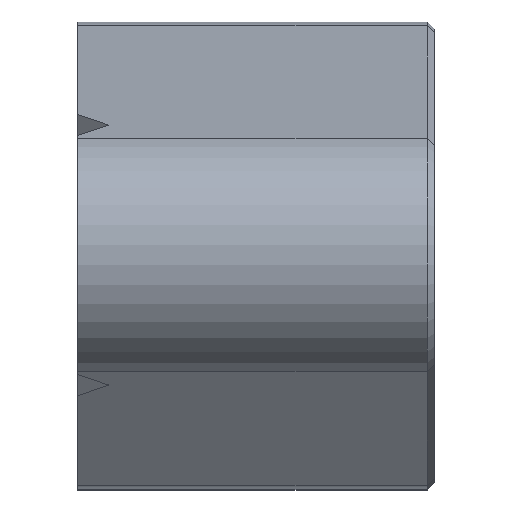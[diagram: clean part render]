
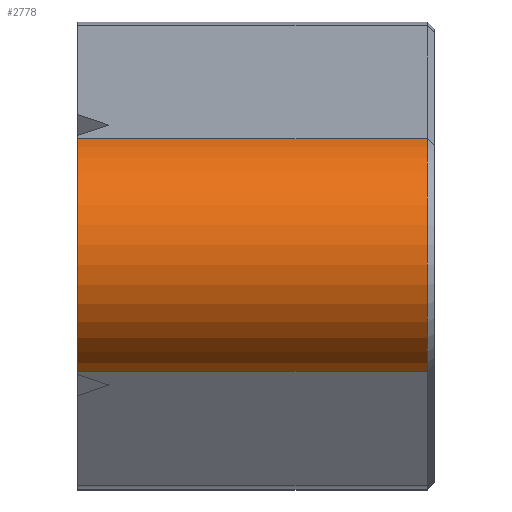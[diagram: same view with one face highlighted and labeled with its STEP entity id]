
A CAD part, top view. The second image highlights one B-rep face of the part: STEP entity #2778.
In plain terms, the highlighted cylindrical face has radius 6.9 mm (diameter 13.8 mm), a partial arc.
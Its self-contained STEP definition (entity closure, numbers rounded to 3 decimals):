
#355 = PLANE('',#356);
#356 = AXIS2_PLACEMENT_3D('',#357,#358,#359);
#357 = CARTESIAN_POINT('',(40.,13.1,13.1));
#358 = DIRECTION('',(0.,-0.946,-0.323));
#359 = DIRECTION('',(0.,-0.323,0.946));
#472 = PLANE('',#473);
#473 = AXIS2_PLACEMENT_3D('',#474,#475,#476);
#474 = CARTESIAN_POINT('',(40.,-6.529,32.331));
#475 = DIRECTION('',(0.,0.946,-0.323));
#476 = DIRECTION('',(0.,-0.323,-0.946));
#1017 = CONICAL_SURFACE('',#1018,6.9,0.785);
#1018 = AXIS2_PLACEMENT_3D('',#1019,#1020,#1021);
#1019 = CARTESIAN_POINT('',(59.6,0.,30.1));
#1020 = DIRECTION('',(-1.,0.,0.));
#1021 = DIRECTION('',(0.,0.946,0.323));
#1528 = VERTEX_POINT('',#1529);
#1529 = CARTESIAN_POINT('',(59.6,-6.529,32.331));
#1604 = VERTEX_POINT('',#1605);
#1605 = CARTESIAN_POINT('',(40.,-6.529,32.331));
#1619 = PLANE('',#1620);
#1620 = AXIS2_PLACEMENT_3D('',#1621,#1622,#1623);
#1621 = CARTESIAN_POINT('',(40.,0.,6.795));
#1622 = DIRECTION('',(1.,0.,0.));
#1623 = DIRECTION('',(0.,0.,1.));
#1631 = EDGE_CURVE('',#1604,#1528,#1632,.T.);
#1632 = SURFACE_CURVE('',#1633,(#1637,#1644),.PCURVE_S1.);
#1633 = LINE('',#1634,#1635);
#1634 = CARTESIAN_POINT('',(40.,-6.529,32.331));
#1635 = VECTOR('',#1636,1.);
#1636 = DIRECTION('',(1.,0.,0.));
#1637 = PCURVE('',#472,#1638);
#1638 = DEFINITIONAL_REPRESENTATION('',(#1639),#1643);
#1639 = LINE('',#1640,#1641);
#1640 = CARTESIAN_POINT('',(0.,-0.));
#1641 = VECTOR('',#1642,1.);
#1642 = DIRECTION('',(0.,-1.));
#1643 = ( GEOMETRIC_REPRESENTATION_CONTEXT(2) 
PARAMETRIC_REPRESENTATION_CONTEXT() REPRESENTATION_CONTEXT('2D SPACE',''
  ) );
#1644 = PCURVE('',#1645,#1650);
#1645 = CYLINDRICAL_SURFACE('',#1646,6.9);
#1646 = AXIS2_PLACEMENT_3D('',#1647,#1648,#1649);
#1647 = CARTESIAN_POINT('',(40.,0.,30.1));
#1648 = DIRECTION('',(-1.,0.,0.));
#1649 = DIRECTION('',(0.,1.,0.));
#1650 = DEFINITIONAL_REPRESENTATION('',(#1651),#1655);
#1651 = LINE('',#1652,#1653);
#1652 = CARTESIAN_POINT('',(-2.812,0.));
#1653 = VECTOR('',#1654,1.);
#1654 = DIRECTION('',(-0.,-1.));
#1655 = ( GEOMETRIC_REPRESENTATION_CONTEXT(2) 
PARAMETRIC_REPRESENTATION_CONTEXT() REPRESENTATION_CONTEXT('2D SPACE',''
  ) );
#1936 = VERTEX_POINT('',#1937);
#1937 = CARTESIAN_POINT('',(59.6,6.529,32.331));
#1958 = EDGE_CURVE('',#1959,#1936,#1961,.T.);
#1959 = VERTEX_POINT('',#1960);
#1960 = CARTESIAN_POINT('',(40.,6.529,32.331));
#1961 = SURFACE_CURVE('',#1962,(#1966,#1973),.PCURVE_S1.);
#1962 = LINE('',#1963,#1964);
#1963 = CARTESIAN_POINT('',(40.,6.529,32.331));
#1964 = VECTOR('',#1965,1.);
#1965 = DIRECTION('',(1.,0.,0.));
#1966 = PCURVE('',#355,#1967);
#1967 = DEFINITIONAL_REPRESENTATION('',(#1968),#1972);
#1968 = LINE('',#1969,#1970);
#1969 = CARTESIAN_POINT('',(20.322,0.));
#1970 = VECTOR('',#1971,1.);
#1971 = DIRECTION('',(0.,-1.));
#1972 = ( GEOMETRIC_REPRESENTATION_CONTEXT(2) 
PARAMETRIC_REPRESENTATION_CONTEXT() REPRESENTATION_CONTEXT('2D SPACE',''
  ) );
#1973 = PCURVE('',#1645,#1974);
#1974 = DEFINITIONAL_REPRESENTATION('',(#1975),#1979);
#1975 = LINE('',#1976,#1977);
#1976 = CARTESIAN_POINT('',(-0.329,0.));
#1977 = VECTOR('',#1978,1.);
#1978 = DIRECTION('',(-0.,-1.));
#1979 = ( GEOMETRIC_REPRESENTATION_CONTEXT(2) 
PARAMETRIC_REPRESENTATION_CONTEXT() REPRESENTATION_CONTEXT('2D SPACE',''
  ) );
#2477 = EDGE_CURVE('',#1936,#1528,#2478,.T.);
#2478 = SURFACE_CURVE('',#2479,(#2484,#2491),.PCURVE_S1.);
#2479 = CIRCLE('',#2480,6.9);
#2480 = AXIS2_PLACEMENT_3D('',#2481,#2482,#2483);
#2481 = CARTESIAN_POINT('',(59.6,0.,30.1));
#2482 = DIRECTION('',(1.,0.,0.));
#2483 = DIRECTION('',(0.,0.946,0.323)
  );
#2484 = PCURVE('',#1017,#2485);
#2485 = DEFINITIONAL_REPRESENTATION('',(#2486),#2490);
#2486 = LINE('',#2487,#2488);
#2487 = CARTESIAN_POINT('',(-0.,-0.));
#2488 = VECTOR('',#2489,1.);
#2489 = DIRECTION('',(-1.,-0.));
#2490 = ( GEOMETRIC_REPRESENTATION_CONTEXT(2) 
PARAMETRIC_REPRESENTATION_CONTEXT() REPRESENTATION_CONTEXT('2D SPACE',''
  ) );
#2491 = PCURVE('',#1645,#2492);
#2492 = DEFINITIONAL_REPRESENTATION('',(#2493),#2497);
#2493 = LINE('',#2494,#2495);
#2494 = CARTESIAN_POINT('',(-0.329,-19.6));
#2495 = VECTOR('',#2496,1.);
#2496 = DIRECTION('',(-1.,0.));
#2497 = ( GEOMETRIC_REPRESENTATION_CONTEXT(2) 
PARAMETRIC_REPRESENTATION_CONTEXT() REPRESENTATION_CONTEXT('2D SPACE',''
  ) );
#2778 = ADVANCED_FACE('',(#2779),#1645,.T.);
#2779 = FACE_BOUND('',#2780,.F.);
#2780 = EDGE_LOOP('',(#2781,#2782,#2783,#2784));
#2781 = ORIENTED_EDGE('',*,*,#1958,.T.);
#2782 = ORIENTED_EDGE('',*,*,#2477,.T.);
#2783 = ORIENTED_EDGE('',*,*,#1631,.F.);
#2784 = ORIENTED_EDGE('',*,*,#2785,.F.);
#2785 = EDGE_CURVE('',#1959,#1604,#2786,.T.);
#2786 = SURFACE_CURVE('',#2787,(#2792,#2799),.PCURVE_S1.);
#2787 = CIRCLE('',#2788,6.9);
#2788 = AXIS2_PLACEMENT_3D('',#2789,#2790,#2791);
#2789 = CARTESIAN_POINT('',(40.,0.,30.1));
#2790 = DIRECTION('',(1.,0.,0.));
#2791 = DIRECTION('',(0.,1.,0.));
#2792 = PCURVE('',#1645,#2793);
#2793 = DEFINITIONAL_REPRESENTATION('',(#2794),#2798);
#2794 = LINE('',#2795,#2796);
#2795 = CARTESIAN_POINT('',(-0.,0.));
#2796 = VECTOR('',#2797,1.);
#2797 = DIRECTION('',(-1.,0.));
#2798 = ( GEOMETRIC_REPRESENTATION_CONTEXT(2) 
PARAMETRIC_REPRESENTATION_CONTEXT() REPRESENTATION_CONTEXT('2D SPACE',''
  ) );
#2799 = PCURVE('',#1619,#2800);
#2800 = DEFINITIONAL_REPRESENTATION('',(#2801),#2805);
#2801 = CIRCLE('',#2802,6.9);
#2802 = AXIS2_PLACEMENT_2D('',#2803,#2804);
#2803 = CARTESIAN_POINT('',(23.305,0.));
#2804 = DIRECTION('',(0.,-1.));
#2805 = ( GEOMETRIC_REPRESENTATION_CONTEXT(2) 
PARAMETRIC_REPRESENTATION_CONTEXT() REPRESENTATION_CONTEXT('2D SPACE',''
  ) );
